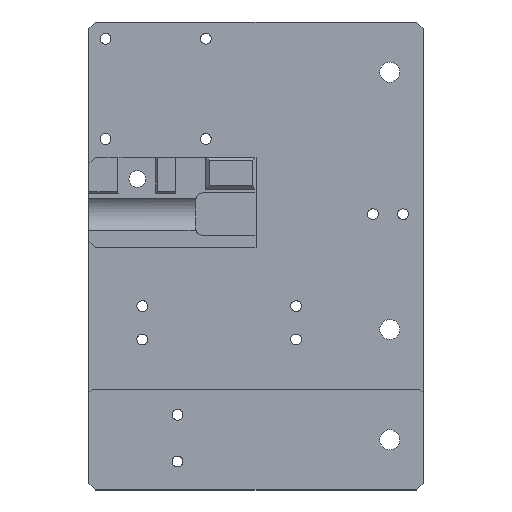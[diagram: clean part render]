
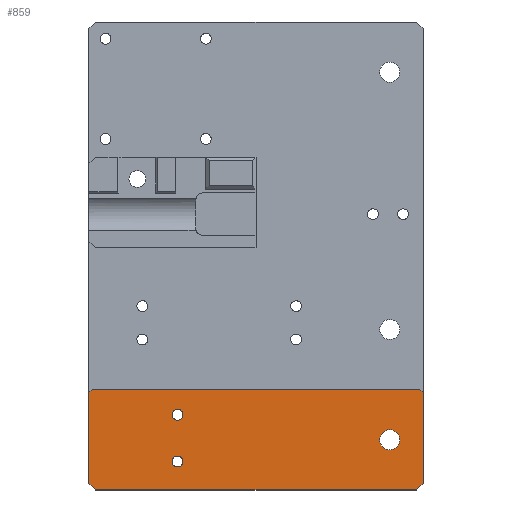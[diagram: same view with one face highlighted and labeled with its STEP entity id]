
A CAD part, top view. The second image highlights one B-rep face of the part: STEP entity #859.
In plain terms, the highlighted planar face has unit normal (0, 0, 1).
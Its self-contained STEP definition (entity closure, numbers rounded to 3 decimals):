
#755=AXIS2_PLACEMENT_3D('Plane Axis2P3D',#752,#753,#754) ;
#807=AXIS2_PLACEMENT_3D('Circle Axis2P3D',#805,#806,$) ;
#816=AXIS2_PLACEMENT_3D('Circle Axis2P3D',#814,#815,$) ;
#825=AXIS2_PLACEMENT_3D('Circle Axis2P3D',#823,#824,$) ;
#834=AXIS2_PLACEMENT_3D('Circle Axis2P3D',#832,#833,$) ;
#843=AXIS2_PLACEMENT_3D('Circle Axis2P3D',#841,#842,$) ;
#852=AXIS2_PLACEMENT_3D('Circle Axis2P3D',#850,#851,$) ;
#524=CARTESIAN_POINT('Vertex',(-50.,-80.5,6.5)) ;
#527=CARTESIAN_POINT('Line Origine',(-50.,-67.,6.5)) ;
#531=CARTESIAN_POINT('Vertex',(-50.,-53.5,6.5)) ;
#602=CARTESIAN_POINT('Vertex',(50.,-53.5,6.5)) ;
#605=CARTESIAN_POINT('Line Origine',(50.,-67.,6.5)) ;
#609=CARTESIAN_POINT('Vertex',(50.,-80.5,6.5)) ;
#752=CARTESIAN_POINT('Axis2P3D Location',(0.,0.,6.5)) ;
#757=CARTESIAN_POINT('Line Origine',(-49.,-81.5,6.5)) ;
#761=CARTESIAN_POINT('Vertex',(-48.,-82.5,6.5)) ;
#764=CARTESIAN_POINT('Line Origine',(0.,-82.5,6.5)) ;
#768=CARTESIAN_POINT('Vertex',(48.,-82.5,6.5)) ;
#771=CARTESIAN_POINT('Line Origine',(49.,-81.5,6.5)) ;
#776=CARTESIAN_POINT('Line Origine',(49.5,-53.,6.5)) ;
#780=CARTESIAN_POINT('Vertex',(49.,-52.5,6.5)) ;
#783=CARTESIAN_POINT('Line Origine',(0.,-52.5,6.5)) ;
#787=CARTESIAN_POINT('Vertex',(-49.,-52.5,6.5)) ;
#790=CARTESIAN_POINT('Line Origine',(-49.5,-53.,6.5)) ;
#805=CARTESIAN_POINT('Axis2P3D Location',(40.,-67.5,6.5)) ;
#809=CARTESIAN_POINT('Vertex',(43.,-67.5,6.5)) ;
#811=CARTESIAN_POINT('Vertex',(37.,-67.5,6.5)) ;
#814=CARTESIAN_POINT('Axis2P3D Location',(40.,-67.5,6.5)) ;
#823=CARTESIAN_POINT('Axis2P3D Location',(-23.5,-74.,6.5)) ;
#827=CARTESIAN_POINT('Vertex',(-24.923,-73.223,6.5)) ;
#829=CARTESIAN_POINT('Vertex',(-22.077,-74.777,6.5)) ;
#832=CARTESIAN_POINT('Axis2P3D Location',(-23.5,-74.,6.5)) ;
#841=CARTESIAN_POINT('Axis2P3D Location',(-23.5,-60.,6.5)) ;
#845=CARTESIAN_POINT('Vertex',(-24.923,-59.223,6.5)) ;
#847=CARTESIAN_POINT('Vertex',(-22.077,-60.777,6.5)) ;
#850=CARTESIAN_POINT('Axis2P3D Location',(-23.5,-60.,6.5)) ;
#528=DIRECTION('Vector Direction',(0.,1.,0.)) ;
#606=DIRECTION('Vector Direction',(0.,1.,0.)) ;
#753=DIRECTION('Axis2P3D Direction',(0.,0.,1.)) ;
#754=DIRECTION('Axis2P3D XDirection',(1.,0.,0.)) ;
#758=DIRECTION('Vector Direction',(0.707,-0.707,0.)) ;
#765=DIRECTION('Vector Direction',(1.,0.,0.)) ;
#772=DIRECTION('Vector Direction',(-0.707,-0.707,0.)) ;
#777=DIRECTION('Vector Direction',(0.707,-0.707,0.)) ;
#784=DIRECTION('Vector Direction',(1.,0.,0.)) ;
#791=DIRECTION('Vector Direction',(0.707,0.707,0.)) ;
#806=DIRECTION('Axis2P3D Direction',(0.,0.,1.)) ;
#815=DIRECTION('Axis2P3D Direction',(0.,0.,1.)) ;
#824=DIRECTION('Axis2P3D Direction',(0.,0.,1.)) ;
#833=DIRECTION('Axis2P3D Direction',(0.,0.,1.)) ;
#842=DIRECTION('Axis2P3D Direction',(0.,0.,1.)) ;
#851=DIRECTION('Axis2P3D Direction',(0.,0.,1.)) ;
#529=VECTOR('Line Direction',#528,1.) ;
#607=VECTOR('Line Direction',#606,1.) ;
#759=VECTOR('Line Direction',#758,1.) ;
#766=VECTOR('Line Direction',#765,1.) ;
#773=VECTOR('Line Direction',#772,1.) ;
#778=VECTOR('Line Direction',#777,1.) ;
#785=VECTOR('Line Direction',#784,1.) ;
#792=VECTOR('Line Direction',#791,1.) ;
#796=ORIENTED_EDGE('',*,*,#533,.F.) ;
#797=ORIENTED_EDGE('',*,*,#763,.F.) ;
#798=ORIENTED_EDGE('',*,*,#770,.T.) ;
#799=ORIENTED_EDGE('',*,*,#775,.F.) ;
#800=ORIENTED_EDGE('',*,*,#611,.T.) ;
#801=ORIENTED_EDGE('',*,*,#782,.F.) ;
#802=ORIENTED_EDGE('',*,*,#789,.T.) ;
#803=ORIENTED_EDGE('',*,*,#794,.F.) ;
#820=ORIENTED_EDGE('',*,*,#813,.F.) ;
#821=ORIENTED_EDGE('',*,*,#818,.F.) ;
#838=ORIENTED_EDGE('',*,*,#831,.F.) ;
#839=ORIENTED_EDGE('',*,*,#836,.F.) ;
#856=ORIENTED_EDGE('',*,*,#849,.F.) ;
#857=ORIENTED_EDGE('',*,*,#854,.F.) ;
#822=FACE_BOUND('',#819,.T.) ;
#840=FACE_BOUND('',#837,.T.) ;
#858=FACE_BOUND('',#855,.T.) ;
#859=ADVANCED_FACE('\X2\96F64EF651E04F554F53\X0\',(#804,#822,#840,#858),#756,.T.) ;
#808=CIRCLE('generated circle',#807,3.) ;
#817=CIRCLE('generated circle',#816,3.) ;
#826=CIRCLE('generated circle',#825,1.621) ;
#835=CIRCLE('generated circle',#834,1.621) ;
#844=CIRCLE('generated circle',#843,1.621) ;
#853=CIRCLE('generated circle',#852,1.621) ;
#533=EDGE_CURVE('',#525,#532,#530,.T.) ;
#611=EDGE_CURVE('',#610,#603,#608,.T.) ;
#763=EDGE_CURVE('',#762,#525,#760,.F.) ;
#770=EDGE_CURVE('',#762,#769,#767,.T.) ;
#775=EDGE_CURVE('',#610,#769,#774,.T.) ;
#782=EDGE_CURVE('',#781,#603,#779,.T.) ;
#789=EDGE_CURVE('',#781,#788,#786,.F.) ;
#794=EDGE_CURVE('',#532,#788,#793,.T.) ;
#813=EDGE_CURVE('',#810,#812,#808,.T.) ;
#818=EDGE_CURVE('',#812,#810,#817,.T.) ;
#831=EDGE_CURVE('',#828,#830,#826,.T.) ;
#836=EDGE_CURVE('',#830,#828,#835,.T.) ;
#849=EDGE_CURVE('',#846,#848,#844,.T.) ;
#854=EDGE_CURVE('',#848,#846,#853,.T.) ;
#795=EDGE_LOOP('',(#796,#797,#798,#799,#800,#801,#802,#803)) ;
#819=EDGE_LOOP('',(#820,#821)) ;
#837=EDGE_LOOP('',(#838,#839)) ;
#855=EDGE_LOOP('',(#856,#857)) ;
#804=FACE_OUTER_BOUND('',#795,.T.) ;
#530=LINE('Line',#527,#529) ;
#608=LINE('Line',#605,#607) ;
#760=LINE('Line',#757,#759) ;
#767=LINE('Line',#764,#766) ;
#774=LINE('Line',#771,#773) ;
#779=LINE('Line',#776,#778) ;
#786=LINE('Line',#783,#785) ;
#793=LINE('Line',#790,#792) ;
#756=PLANE('Plane',#755) ;
#525=VERTEX_POINT('',#524) ;
#532=VERTEX_POINT('',#531) ;
#603=VERTEX_POINT('',#602) ;
#610=VERTEX_POINT('',#609) ;
#762=VERTEX_POINT('',#761) ;
#769=VERTEX_POINT('',#768) ;
#781=VERTEX_POINT('',#780) ;
#788=VERTEX_POINT('',#787) ;
#810=VERTEX_POINT('',#809) ;
#812=VERTEX_POINT('',#811) ;
#828=VERTEX_POINT('',#827) ;
#830=VERTEX_POINT('',#829) ;
#846=VERTEX_POINT('',#845) ;
#848=VERTEX_POINT('',#847) ;
